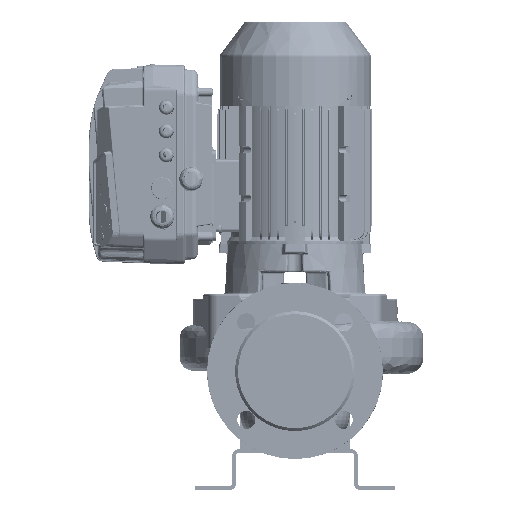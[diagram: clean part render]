
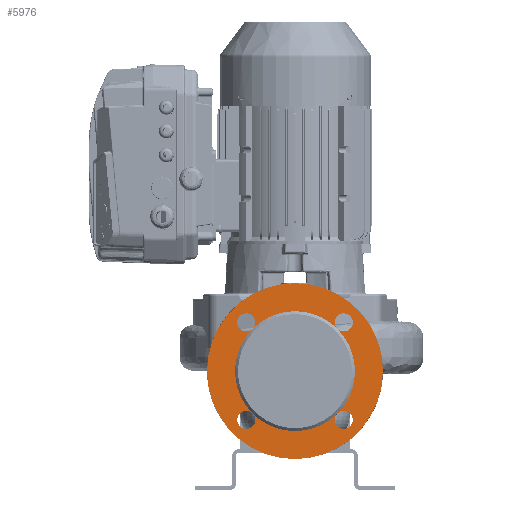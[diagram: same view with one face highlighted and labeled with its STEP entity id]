
A CAD part, front view. The second image highlights one B-rep face of the part: STEP entity #5976.
In plain terms, the highlighted planar face has unit normal (0, -1, 0) as drawn and (0, 1, 0) by its records, which use the part's own axes.
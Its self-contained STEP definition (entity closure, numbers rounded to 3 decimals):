
#5976=ADVANCED_FACE('',(#15245,#15246),#15247,.T.);
#6002=EDGE_CURVE('',#15287,#15288,#15289,.T.);
#6004=EDGE_CURVE('',#15291,#15287,#15292,.T.);
#6006=EDGE_CURVE('',#15294,#15291,#15295,.T.);
#6010=EDGE_CURVE('',#15301,#15302,#15303,.T.);
#6014=EDGE_CURVE('',#15309,#15310,#15311,.T.);
#6018=EDGE_CURVE('',#15317,#15318,#15319,.T.);
#6022=EDGE_CURVE('',#15325,#15326,#15327,.T.);
#6024=EDGE_CURVE('',#15329,#15330,#15331,.T.);
#6216=EDGE_CURVE('',#15330,#15329,#15626,.T.);
#6226=EDGE_CURVE('',#15291,#15325,#15636,.T.);
#6228=EDGE_CURVE('',#15326,#15291,#15638,.T.);
#6230=EDGE_CURVE('',#15287,#15317,#15640,.T.);
#6232=EDGE_CURVE('',#15318,#15287,#15642,.T.);
#6234=EDGE_CURVE('',#15644,#15309,#15645,.T.);
#6236=EDGE_CURVE('',#15310,#15644,#15647,.T.);
#6238=EDGE_CURVE('',#15649,#15301,#15650,.T.);
#6240=EDGE_CURVE('',#15302,#15649,#15652,.T.);
#6242=EDGE_CURVE('',#15288,#15644,#15654,.T.);
#6244=EDGE_CURVE('',#15644,#15649,#15656,.T.);
#6246=EDGE_CURVE('',#15649,#15294,#15658,.T.);
#15245=FACE_OUTER_BOUND('',#32432,.T.);
#15246=FACE_BOUND('',#32433,.T.);
#15247=PLANE('',#32434);
#15287=VERTEX_POINT('',#33072);
#15288=VERTEX_POINT('',#33073);
#15289=CIRCLE('',#33074,63.0);
#15291=VERTEX_POINT('',#33077);
#15292=CIRCLE('',#33078,63.0);
#15294=VERTEX_POINT('',#33081);
#15295=CIRCLE('',#33082,63.0);
#15301=VERTEX_POINT('',#33090);
#15302=VERTEX_POINT('',#33091);
#15303=CIRCLE('',#33092,9.5);
#15309=VERTEX_POINT('',#33100);
#15310=VERTEX_POINT('',#33101);
#15311=CIRCLE('',#33102,9.5);
#15317=VERTEX_POINT('',#33110);
#15318=VERTEX_POINT('',#33111);
#15319=CIRCLE('',#33112,9.5);
#15325=VERTEX_POINT('',#33120);
#15326=VERTEX_POINT('',#33121);
#15327=CIRCLE('',#33122,9.5);
#15329=VERTEX_POINT('',#33125);
#15330=VERTEX_POINT('',#33126);
#15331=CIRCLE('',#33127,92.5);
#15626=CIRCLE('',#33594,92.5);
#15636=CIRCLE('',#33609,9.5);
#15638=CIRCLE('',#33612,9.5);
#15640=CIRCLE('',#33615,9.5);
#15642=CIRCLE('',#33618,9.5);
#15644=VERTEX_POINT('',#33621);
#15645=CIRCLE('',#33622,9.5);
#15647=CIRCLE('',#33625,9.5);
#15649=VERTEX_POINT('',#33628);
#15650=CIRCLE('',#33629,9.5);
#15652=CIRCLE('',#33632,9.5);
#15654=CIRCLE('',#33635,63.0);
#15656=CIRCLE('',#33638,63.0);
#15658=CIRCLE('',#33641,63.0);
#32432=EDGE_LOOP('',(#102975,#102976));
#32433=EDGE_LOOP('',(#102977,#102978,#102979,#102980,#102981,#102982,#102983,#102984,#102985,#102986,#102987,#102988,#102989,#102990,#102991,#102992,#102993,#102994));
#32434=AXIS2_PLACEMENT_3D('',#102995,#102996,#102997);
#33072=CARTESIAN_POINT('',(44.548,165.,20.048));
#33073=CARTESIAN_POINT('',(0.,165.0,38.5));
#33074=AXIS2_PLACEMENT_3D('',#103087,#103088,#103089);
#33077=CARTESIAN_POINT('',(44.548,165.0,-69.048));
#33078=AXIS2_PLACEMENT_3D('',#103090,#103091,#103092);
#33081=CARTESIAN_POINT('',(0.,165.0,-87.5));
#33082=AXIS2_PLACEMENT_3D('',#103093,#103094,#103095);
#33090=CARTESIAN_POINT('',(-56.624,165.0,-67.921));
#33091=CARTESIAN_POINT('',(-45.906,165.0,-83.609));
#33092=AXIS2_PLACEMENT_3D('',#103099,#103100,#103101);
#33100=CARTESIAN_POINT('',(-43.421,165.,32.124));
#33101=CARTESIAN_POINT('',(-59.109,165.,21.406));
#33102=AXIS2_PLACEMENT_3D('',#103105,#103106,#103107);
#33110=CARTESIAN_POINT('',(56.624,165.,18.921));
#33111=CARTESIAN_POINT('',(45.906,165.,34.609));
#33112=AXIS2_PLACEMENT_3D('',#103111,#103112,#103113);
#33120=CARTESIAN_POINT('',(43.421,165.0,-81.124));
#33121=CARTESIAN_POINT('',(59.109,165.0,-70.406));
#33122=AXIS2_PLACEMENT_3D('',#103117,#103118,#103119);
#33125=CARTESIAN_POINT('',(0.,165.0,-117.0));
#33126=CARTESIAN_POINT('',(0.,165.0,68.0));
#33127=AXIS2_PLACEMENT_3D('',#103120,#103121,#103122);
#33594=AXIS2_PLACEMENT_3D('',#103368,#103369,#103370);
#33609=AXIS2_PLACEMENT_3D('',#103383,#103384,#103385);
#33612=AXIS2_PLACEMENT_3D('',#103386,#103387,#103388);
#33615=AXIS2_PLACEMENT_3D('',#103389,#103390,#103391);
#33618=AXIS2_PLACEMENT_3D('',#103392,#103393,#103394);
#33621=CARTESIAN_POINT('',(-44.548,165.,20.048));
#33622=AXIS2_PLACEMENT_3D('',#103395,#103396,#103397);
#33625=AXIS2_PLACEMENT_3D('',#103398,#103399,#103400);
#33628=CARTESIAN_POINT('',(-44.548,165.0,-69.048));
#33629=AXIS2_PLACEMENT_3D('',#103401,#103402,#103403);
#33632=AXIS2_PLACEMENT_3D('',#103404,#103405,#103406);
#33635=AXIS2_PLACEMENT_3D('',#103407,#103408,#103409);
#33638=AXIS2_PLACEMENT_3D('',#103410,#103411,#103412);
#33641=AXIS2_PLACEMENT_3D('',#103413,#103414,#103415);
#102975=ORIENTED_EDGE('',*,*,#6216,.F.);
#102976=ORIENTED_EDGE('',*,*,#6024,.F.);
#102977=ORIENTED_EDGE('',*,*,#6002,.T.);
#102978=ORIENTED_EDGE('',*,*,#6242,.T.);
#102979=ORIENTED_EDGE('',*,*,#6234,.T.);
#102980=ORIENTED_EDGE('',*,*,#6014,.T.);
#102981=ORIENTED_EDGE('',*,*,#6236,.T.);
#102982=ORIENTED_EDGE('',*,*,#6244,.T.);
#102983=ORIENTED_EDGE('',*,*,#6238,.T.);
#102984=ORIENTED_EDGE('',*,*,#6010,.T.);
#102985=ORIENTED_EDGE('',*,*,#6240,.T.);
#102986=ORIENTED_EDGE('',*,*,#6246,.T.);
#102987=ORIENTED_EDGE('',*,*,#6006,.T.);
#102988=ORIENTED_EDGE('',*,*,#6226,.T.);
#102989=ORIENTED_EDGE('',*,*,#6022,.T.);
#102990=ORIENTED_EDGE('',*,*,#6228,.T.);
#102991=ORIENTED_EDGE('',*,*,#6004,.T.);
#102992=ORIENTED_EDGE('',*,*,#6230,.T.);
#102993=ORIENTED_EDGE('',*,*,#6018,.T.);
#102994=ORIENTED_EDGE('',*,*,#6232,.T.);
#102995=CARTESIAN_POINT('',(0.,165.0,-102.25));
#102996=DIRECTION('',(0.0,1.0,0.0));
#102997=DIRECTION('',(0.0,0.0,1.0));
#103087=CARTESIAN_POINT('',(0.,165.0,-24.5));
#103088=DIRECTION('',(0.0,-1.0,0.0));
#103089=DIRECTION('',(0.,0.0,-1.0));
#103090=CARTESIAN_POINT('',(0.,165.0,-24.5));
#103091=DIRECTION('',(0.0,-1.0,0.0));
#103092=DIRECTION('',(0.,0.0,-1.0));
#103093=CARTESIAN_POINT('',(0.,165.0,-24.5));
#103094=DIRECTION('',(0.0,-1.0,0.0));
#103095=DIRECTION('',(0.,0.0,-1.0));
#103099=CARTESIAN_POINT('',(-51.265,165.0,-75.765));
#103100=DIRECTION('',(0.0,-1.0,0.0));
#103101=DIRECTION('',(-0.564,0.0,0.826));
#103105=CARTESIAN_POINT('',(-51.265,165.,26.765));
#103106=DIRECTION('',(0.0,-1.0,0.0));
#103107=DIRECTION('',(0.826,0.0,0.564));
#103111=CARTESIAN_POINT('',(51.265,165.,26.765));
#103112=DIRECTION('',(0.0,-1.0,0.0));
#103113=DIRECTION('',(0.564,0.0,-0.826));
#103117=CARTESIAN_POINT('',(51.265,165.0,-75.765));
#103118=DIRECTION('',(0.0,-1.0,-0.0));
#103119=DIRECTION('',(-0.826,0.0,-0.564));
#103120=CARTESIAN_POINT('',(0.,165.0,-24.5));
#103121=DIRECTION('',(0.0,-1.0,0.0));
#103122=DIRECTION('',(0.,0.0,-1.0));
#103368=CARTESIAN_POINT('',(0.,165.0,-24.5));
#103369=DIRECTION('',(0.0,-1.0,0.0));
#103370=DIRECTION('',(0.,0.0,-1.0));
#103383=CARTESIAN_POINT('',(51.265,165.0,-75.765));
#103384=DIRECTION('',(0.0,-1.0,-0.0));
#103385=DIRECTION('',(-0.826,0.0,-0.564));
#103386=CARTESIAN_POINT('',(51.265,165.0,-75.765));
#103387=DIRECTION('',(0.0,-1.0,-0.0));
#103388=DIRECTION('',(-0.826,0.0,-0.564));
#103389=CARTESIAN_POINT('',(51.265,165.,26.765));
#103390=DIRECTION('',(0.0,-1.0,0.0));
#103391=DIRECTION('',(0.564,0.0,-0.826));
#103392=CARTESIAN_POINT('',(51.265,165.,26.765));
#103393=DIRECTION('',(0.0,-1.0,0.0));
#103394=DIRECTION('',(0.564,0.0,-0.826));
#103395=CARTESIAN_POINT('',(-51.265,165.,26.765));
#103396=DIRECTION('',(0.0,-1.0,0.0));
#103397=DIRECTION('',(0.826,0.0,0.564));
#103398=CARTESIAN_POINT('',(-51.265,165.,26.765));
#103399=DIRECTION('',(0.0,-1.0,0.0));
#103400=DIRECTION('',(0.826,0.0,0.564));
#103401=CARTESIAN_POINT('',(-51.265,165.0,-75.765));
#103402=DIRECTION('',(0.0,-1.0,0.0));
#103403=DIRECTION('',(-0.564,0.0,0.826));
#103404=CARTESIAN_POINT('',(-51.265,165.0,-75.765));
#103405=DIRECTION('',(0.0,-1.0,0.0));
#103406=DIRECTION('',(-0.564,0.0,0.826));
#103407=CARTESIAN_POINT('',(0.,165.0,-24.5));
#103408=DIRECTION('',(0.0,-1.0,0.0));
#103409=DIRECTION('',(0.,0.0,-1.0));
#103410=CARTESIAN_POINT('',(0.,165.0,-24.5));
#103411=DIRECTION('',(0.0,-1.0,0.0));
#103412=DIRECTION('',(0.,0.0,-1.0));
#103413=CARTESIAN_POINT('',(0.,165.0,-24.5));
#103414=DIRECTION('',(0.0,-1.0,0.0));
#103415=DIRECTION('',(0.,0.0,-1.0));
